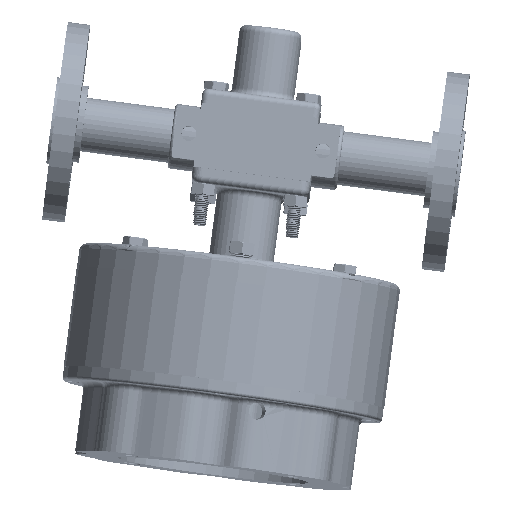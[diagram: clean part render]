
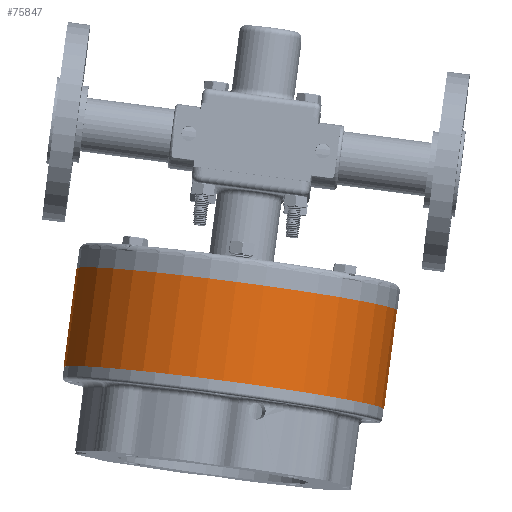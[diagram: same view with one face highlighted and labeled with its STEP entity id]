
A CAD part, front view. The second image highlights one B-rep face of the part: STEP entity #75847.
In plain terms, the highlighted cylindrical face has radius 79.756 mm (diameter 159.512 mm), a partial arc.
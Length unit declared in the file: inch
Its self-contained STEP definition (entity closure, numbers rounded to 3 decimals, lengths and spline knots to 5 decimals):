
#1530 = DIRECTION ( 'NONE',  ( -0.13, -0.046, -0.99 ) ) ;
#13997 = DIRECTION ( 'NONE',  ( -0.13, -0.046, -0.99 ) ) ;
#14221 = DIRECTION ( 'NONE',  ( 0.13, 0.046, 0.99 ) ) ;
#18281 = CARTESIAN_POINT ( 'NONE',  ( -3.07978, 99.05146, 26.396 ) ) ;
#19255 = EDGE_CURVE ( 'NONE', #99636, #132446, #115728, .T. ) ;
#25805 = CARTESIAN_POINT ( 'NONE',  ( -2.8284, 99.14087, 28.31454 ) ) ;
#26952 = AXIS2_PLACEMENT_3D ( 'NONE', #86722, #75195, #95992 ) ;
#32226 = CARTESIAN_POINT ( 'NONE',  ( -5.94182, 99.17258, 28.721 ) ) ;
#32819 = EDGE_CURVE ( 'NONE', #113843, #50527, #56712, .T. ) ;
#48635 = LINE ( 'NONE', #142484, #140830 ) ;
#50527 = VERTEX_POINT ( 'NONE', #133198 ) ;
#54325 = AXIS2_PLACEMENT_3D ( 'NONE', #18281, #78282, #146741 ) ;
#56712 = CIRCLE ( 'NONE', #54325, 3.14 ) ;
#57766 = CARTESIAN_POINT ( 'NONE',  ( -6.1932, 99.08317, 26.80246 ) ) ;
#67182 = EDGE_CURVE ( 'NONE', #99636, #113843, #48635, .T. ) ;
#70860 = LINE ( 'NONE', #131613, #145236 ) ;
#72949 = ORIENTED_EDGE ( 'NONE', *, *, #19255, .F. ) ;
#73417 = ORIENTED_EDGE ( 'NONE', *, *, #32819, .T. ) ;
#75195 = DIRECTION ( 'NONE',  ( -0.13, -0.046, -0.99 ) ) ;
#75847 = ADVANCED_FACE ( 'NONE', ( #144409 ), #130632, .T. ) ;
#78282 = DIRECTION ( 'NONE',  ( 0.13, 0.046, 0.99 ) ) ;
#80846 = ORIENTED_EDGE ( 'NONE', *, *, #94377, .F. ) ;
#86722 = CARTESIAN_POINT ( 'NONE',  ( -2.8284, 99.14087, 28.31454 ) ) ;
#94377 = EDGE_CURVE ( 'NONE', #132446, #50527, #70860, .T. ) ;
#95992 = DIRECTION ( 'NONE',  ( -0.992, 0.01, 0.129 ) ) ;
#99536 = EDGE_LOOP ( 'NONE', ( #80846, #72949, #116526, #73417 ) ) ;
#99636 = VERTEX_POINT ( 'NONE', #32226 ) ;
#113347 = AXIS2_PLACEMENT_3D ( 'NONE', #25805, #14221, #131963 ) ;
#113843 = VERTEX_POINT ( 'NONE', #57766 ) ;
#115728 = CIRCLE ( 'NONE', #113347, 3.14 ) ;
#116526 = ORIENTED_EDGE ( 'NONE', *, *, #67182, .T. ) ;
#130632 = CYLINDRICAL_SURFACE ( 'NONE', #26952, 3.14 ) ;
#131613 = CARTESIAN_POINT ( 'NONE',  ( 0.28502, 99.10916, 27.90808 ) ) ;
#131963 = DIRECTION ( 'NONE',  ( 0.992, -0.01, -0.129 ) ) ;
#132446 = VERTEX_POINT ( 'NONE', #149800 ) ;
#133198 = CARTESIAN_POINT ( 'NONE',  ( 0.03364, 99.01975, 25.98955 ) ) ;
#140830 = VECTOR ( 'NONE', #13997, 39.37008 ) ;
#142484 = CARTESIAN_POINT ( 'NONE',  ( -5.94182, 99.17258, 28.721 ) ) ;
#144409 = FACE_OUTER_BOUND ( 'NONE', #99536, .T. ) ;
#145236 = VECTOR ( 'NONE', #1530, 39.37008 ) ;
#146741 = DIRECTION ( 'NONE',  ( 0.992, -0.01, -0.129 ) ) ;
#149800 = CARTESIAN_POINT ( 'NONE',  ( 0.28502, 99.10916, 27.90808 ) ) ;
